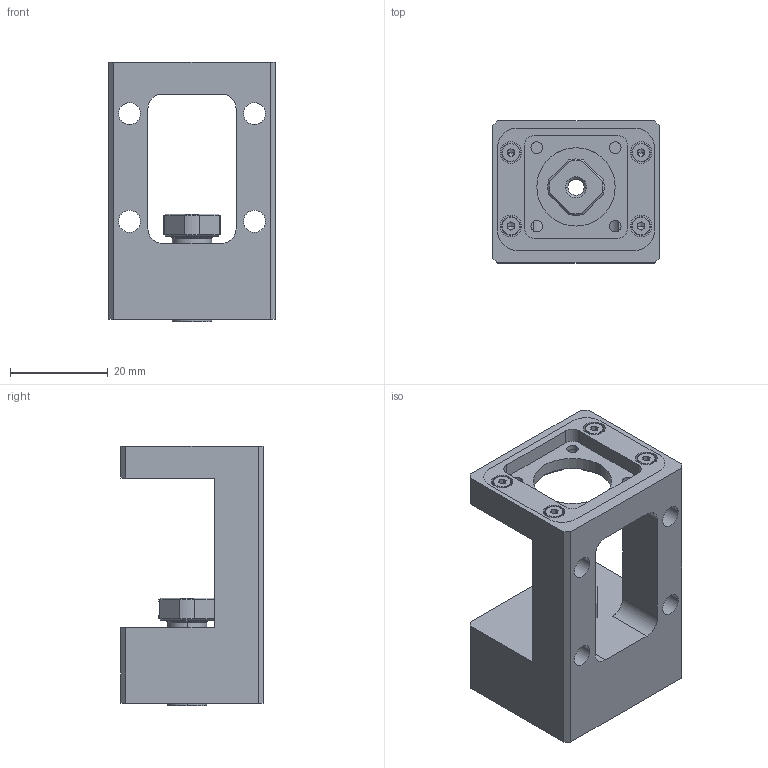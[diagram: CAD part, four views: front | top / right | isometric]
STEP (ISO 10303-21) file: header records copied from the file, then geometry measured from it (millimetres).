
FILE_DESCRIPTION (( 'STEP AP214' ), '1' );
FILE_NAME ('M-SBU-4-20.2.5.STEP', '2026-02-09T09:11:40', ( '决扁浅何厘' ), ( '' ), 'SwSTEP 2.0', 'SolidWorks 2024', '' );
FILE_SCHEMA (( 'AUTOMOTIVE_DESIGN' ));
Length unit declared in the file: millimetre
Products named in the file (8): deep groove ball bearing (series 63)_ks_KS B 2023 S63 - 634-S-C; 4 COLLAR; M-SBU-4-20.2.5; 20 BRACKET; RN4; socket head cap screw_ks-2-4_KS 1003 - M2 x 4 x 4-N; EK-4-5 COVER; E-SBU-4-5 HOUSING
Assembly tree (12 placements, depth 2):
  M-SBU-4-20.2.5
    E-SBU-4-5 HOUSING
    deep groove ball bearing (series 63)_ks_KS B 2023 S63 - 634-S-C  x2
    EK-4-5 COVER
    20 BRACKET
    socket head cap screw_ks-2-4_KS 1003 - M2 x 4 x 4-N  x4
    4 COLLAR  x2
    RN4
Bounding box: 34 x 29 x 53 mm (x, y, z)
Volume: 23417.8 mm3; surface area: 15208.8 mm2
Topology: 14 solids, 14 shells, 421 faces, 981 edges, 603 vertices
Faces by surface type: cylinder 168, plane 165, torus 48, cone 40
Entity records: 9385 total; most frequent: CARTESIAN_POINT 1898, DIRECTION 1610, ORIENTED_EDGE 1418, EDGE_CURVE 709, AXIS2_PLACEMENT_3D 624, VERTEX_POINT 452, EDGE_LOOP 363, VECTOR 362
